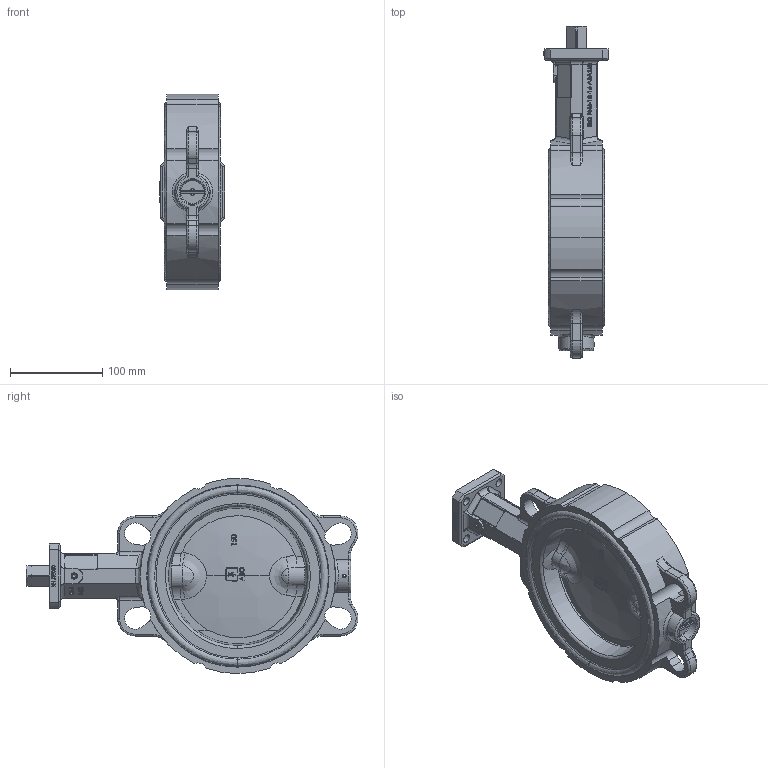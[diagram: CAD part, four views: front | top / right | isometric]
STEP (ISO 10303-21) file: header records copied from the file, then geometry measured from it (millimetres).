
FILE_DESCRIPTION (( 'STEP AP203' ), '1' );
FILE_NAME ('4831060_Axel-Larsson.step', '2023-10-04T13:14:13', ( '' ), ( '' ), 'SwSTEP 2.0', 'SolidWorks 2014', '' );
FILE_SCHEMA (( 'CONFIG_CONTROL_DESIGN' ));
Length unit declared in the file: millimetre
Products named in the file (1): 4831060_Axel-Larsson
Bounding box: 71 x 360.42 x 212 mm (x, y, z)
Volume: 1412909.8 mm3; surface area: 198118.6 mm2
Topology: 5 solids, 12 shells, 1239 faces, 3171 edges, 2011 vertices
Faces by surface type: bspline 505, plane 422, cylinder 240, cone 72
Entity records: 68785 total; most frequent: CARTESIAN_POINT 42451, ORIENTED_EDGE 6330, DIRECTION 4053, EDGE_CURVE 3165, VERTEX_POINT 2011, AXIS2_PLACEMENT_3D 1382, EDGE_LOOP 1336, VECTOR 1289
